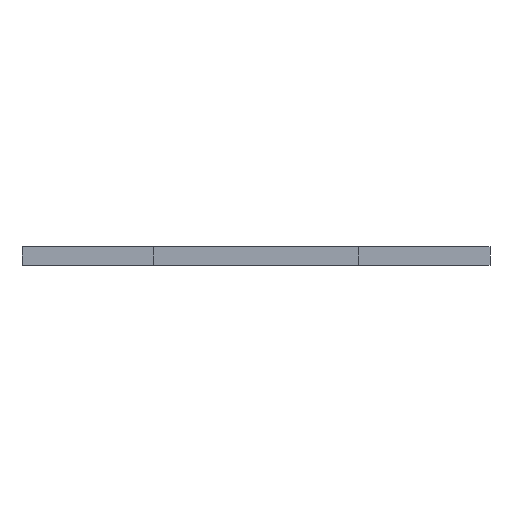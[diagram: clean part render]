
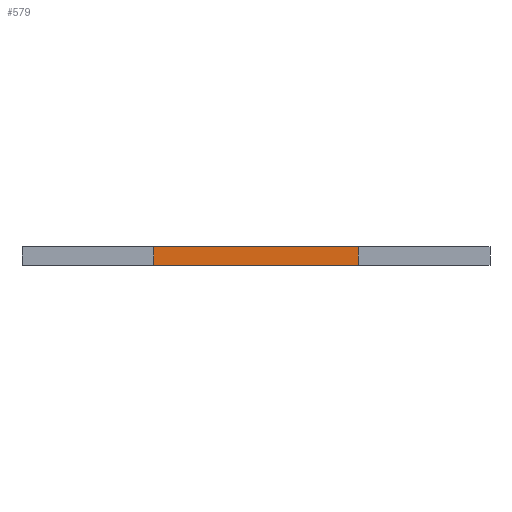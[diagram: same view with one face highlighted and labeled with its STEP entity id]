
A CAD part, left-side view. The second image highlights one B-rep face of the part: STEP entity #579.
In plain terms, the highlighted planar face has unit normal (-1, 0, 0).
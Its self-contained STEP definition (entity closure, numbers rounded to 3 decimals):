
#27 = VECTOR ( 'NONE', #905, 1000. ) ;
#68 = CARTESIAN_POINT ( 'NONE',  ( -69.5, 14., -1.25 ) ) ;
#99 = LINE ( 'NONE', #397, #27 ) ;
#107 = PLANE ( 'NONE',  #561 ) ;
#152 = VERTEX_POINT ( 'NONE', #264 ) ;
#157 = EDGE_CURVE ( 'NONE', #728, #152, #99, .T. ) ;
#170 = ORIENTED_EDGE ( 'NONE', *, *, #821, .F. ) ;
#184 = CARTESIAN_POINT ( 'NONE',  ( -69.5, -14., 1.25 ) ) ;
#230 = DIRECTION ( 'NONE',  ( 0., -1., 0. ) ) ;
#242 = CARTESIAN_POINT ( 'NONE',  ( -69.5, 14., 1.25 ) ) ;
#264 = CARTESIAN_POINT ( 'NONE',  ( -69.5, 14., -1.25 ) ) ;
#265 = VECTOR ( 'NONE', #766, 1000. ) ;
#316 = EDGE_CURVE ( 'NONE', #152, #754, #740, .T. ) ;
#319 = CARTESIAN_POINT ( 'NONE',  ( -69.5, -14., -1.25 ) ) ;
#341 = ORIENTED_EDGE ( 'NONE', *, *, #157, .T. ) ;
#382 = DIRECTION ( 'NONE',  ( 0., -1., 0. ) ) ;
#383 = CARTESIAN_POINT ( 'NONE',  ( -69.5, 14., 1.25 ) ) ;
#397 = CARTESIAN_POINT ( 'NONE',  ( -69.5, 14., 1.25 ) ) ;
#454 = LINE ( 'NONE', #184, #265 ) ;
#467 = CARTESIAN_POINT ( 'NONE',  ( -69.5, 14., 1.25 ) ) ;
#471 = FACE_OUTER_BOUND ( 'NONE', #907, .T. ) ;
#561 = AXIS2_PLACEMENT_3D ( 'NONE', #383, #698, #620 ) ;
#579 = ADVANCED_FACE ( 'NONE', ( #471 ), #107, .F. ) ;
#620 = DIRECTION ( 'NONE',  ( 0., 0., -1. ) ) ;
#642 = LINE ( 'NONE', #467, #807 ) ;
#698 = DIRECTION ( 'NONE',  ( 1., 0., 0. ) ) ;
#713 = VECTOR ( 'NONE', #230, 1000. ) ;
#728 = VERTEX_POINT ( 'NONE', #242 ) ;
#740 = LINE ( 'NONE', #68, #713 ) ;
#748 = VERTEX_POINT ( 'NONE', #892 ) ;
#754 = VERTEX_POINT ( 'NONE', #319 ) ;
#766 = DIRECTION ( 'NONE',  ( 0., 0., -1. ) ) ;
#807 = VECTOR ( 'NONE', #382, 1000. ) ;
#813 = ORIENTED_EDGE ( 'NONE', *, *, #316, .T. ) ;
#821 = EDGE_CURVE ( 'NONE', #728, #748, #642, .T. ) ;
#848 = ORIENTED_EDGE ( 'NONE', *, *, #941, .F. ) ;
#892 = CARTESIAN_POINT ( 'NONE',  ( -69.5, -14., 1.25 ) ) ;
#905 = DIRECTION ( 'NONE',  ( 0., 0., -1. ) ) ;
#907 = EDGE_LOOP ( 'NONE', ( #813, #848, #170, #341 ) ) ;
#941 = EDGE_CURVE ( 'NONE', #748, #754, #454, .T. ) ;
